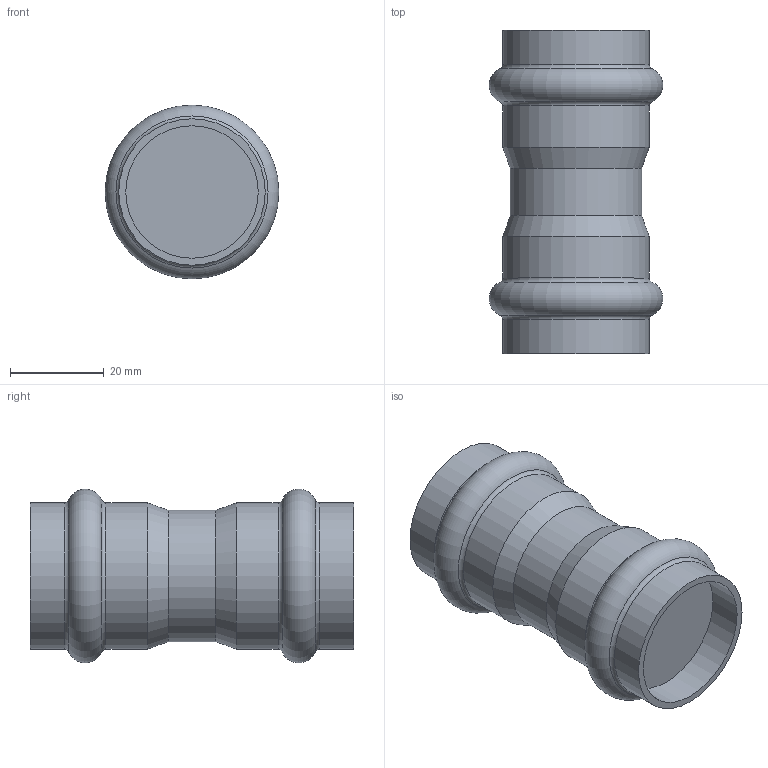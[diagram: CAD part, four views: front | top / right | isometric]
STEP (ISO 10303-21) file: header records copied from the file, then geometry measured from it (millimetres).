
FILE_DESCRIPTION(('STEP AP203'), '1');
FILE_NAME('VTi.903.I.002828', '', ('UNSPECIFIED'), ('UNSPECIFIED'), 'C3D Converter', 'C3D Toolkit', '');
FILE_SCHEMA(('CONFIG_CONTROL_DESIGN'));
Length unit declared in the file: millimetre
Bounding box: 37.09 x 69 x 37.09 mm (x, y, z)
Volume: 45017.6 mm3; surface area: 10220.5 mm2
Topology: 1 solids, 1 shells, 19 faces, 33 edges, 18 vertices
Faces by surface type: cylinder 7, torus 6, plane 4, cone 2
Full cylindrical faces by diameter (mm): 28 x1, 28.3 x2, 31.26 x4
Entity records: 414 total; most frequent: DIRECTION 76, CARTESIAN_POINT 56, AXIS2_PLACEMENT_3D 38, EDGE_LOOP 36, ORIENTED_EDGE 36, FACE_OUTER_BOUND 30, ADVANCED_FACE 19, EDGE_CURVE 18
